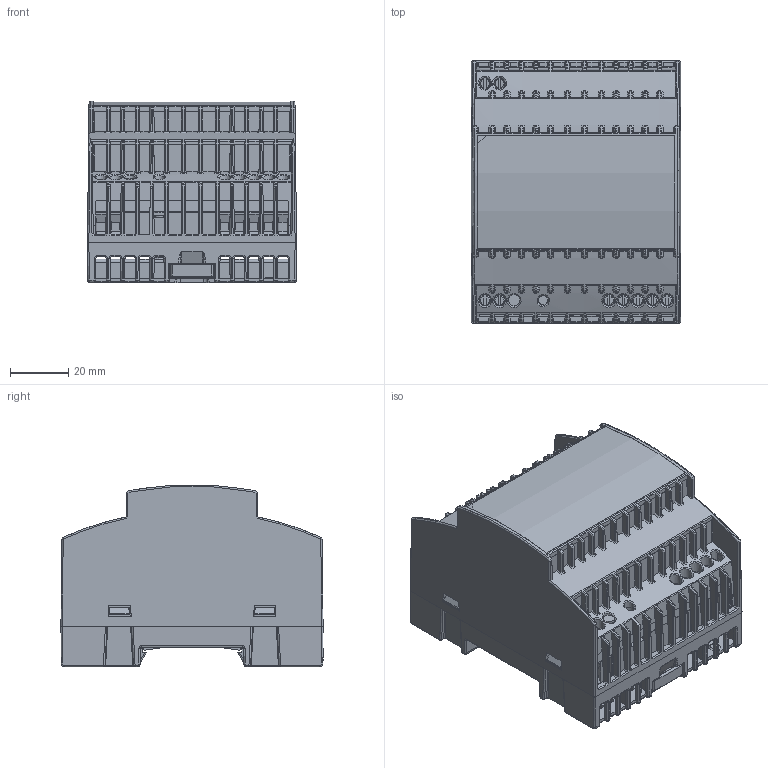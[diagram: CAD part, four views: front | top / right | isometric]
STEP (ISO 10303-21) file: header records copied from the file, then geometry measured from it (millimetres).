
FILE_DESCRIPTION(/* description */ (''),/* implementation_level */ '2;1');
FILE_NAME(/* name */ 'M:\Disegni\Progetti\1_5 Carica Batterie\CB60\Ax\CB60A.stp',/* time_stamp */ '2022-07-19T10:57:18+02:00',/* author */ ('tecnico9'),/* organization */ (''),/* preprocessor_version */ 'ST-DEVELOPER v18.1',/* originating_system */ 'Autodesk Inventor 2021',/* authorisation */ '');
FILE_SCHEMA (('AUTOMOTIVE_DESIGN { 1 0 10303 214 3 1 1 }'));
Length unit declared in the file: millimetre
Products named in the file (1): Part9
Bounding box: 71.8 x 90 x 62.42 mm (x, y, z)
Surface area: 97815.8 mm2 (no closed solid volume)
Topology: 0 solids, 63 shells, 2804 faces, 8675 edges, 5614 vertices
Faces by surface type: cylinder 982, plane 955, bspline 772, cone 59, torus 20, sphere 16
Full cylindrical faces by diameter (mm): 1.8 x2, 3.018 x1, 3.5 x1, 4 x10, 4.2 x2
Entity records: 164910 total; most frequent: CARTESIAN_POINT 93309, ORIENTED_EDGE 15959, DIRECTION 12711, EDGE_CURVE 8663, VERTEX_POINT 5614, LINE 4359, VECTOR 4359, AXIS2_PLACEMENT_3D 4176
